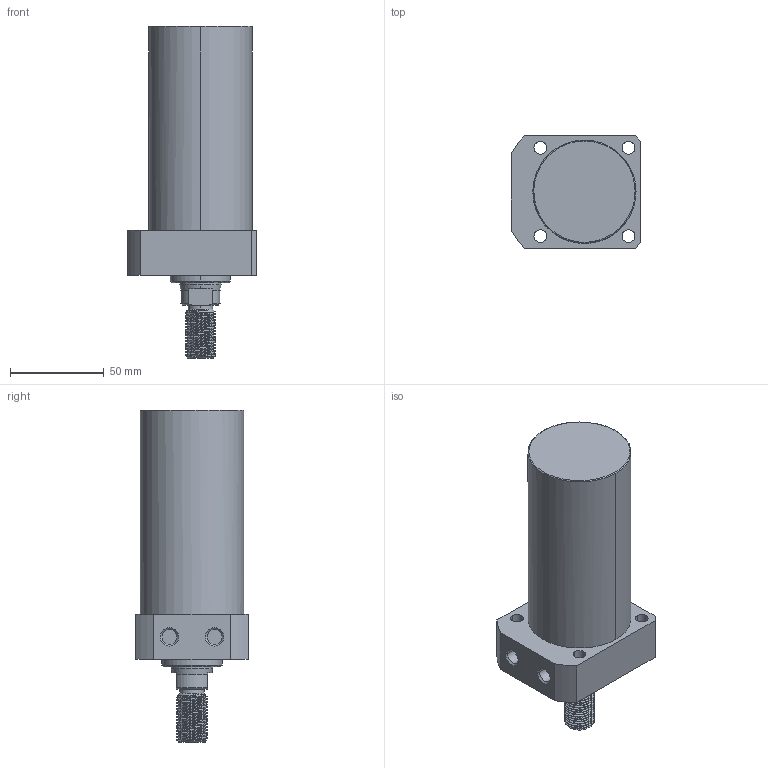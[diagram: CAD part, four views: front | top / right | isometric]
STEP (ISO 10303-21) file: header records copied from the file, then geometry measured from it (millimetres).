
FILE_DESCRIPTION((' '),'2;1');
FILE_NAME( 'TLLR-055CT-080.STEP.stp', '2025-10-24T16:34:47', (' '), ('--- Datakit www.datakit.com---'), ' Datakit CrossCadWare V2024.1 Dec 21 2023', 'Mastercam 2025', ' ');
FILE_SCHEMA(('AUTOMOTIVE_DESIGN { 1 0 10303 214 1 1 1 1 }'));
Length unit declared in the file: millimetre
Products named in the file (1): TLLR-055CT-080
Bounding box: 69 x 60 x 177 mm (x, y, z)
Volume: 363695.6 mm3; surface area: 38644.4 mm2
Topology: 1 solids, 1 shells, 100 faces, 354 edges, 264 vertices
Faces by surface type: cylinder 61, plane 20, cone 15, bspline 2, torus 2
Entity records: 11264 total; most frequent: CARTESIAN_POINT 8203, ORIENTED_EDGE 708, DIRECTION 513, EDGE_CURVE 354, VERTEX_POINT 264, AXIS2_PLACEMENT_3D 208, B_SPLINE_CURVE_WITH_KNOTS 148, EDGE_LOOP 116
